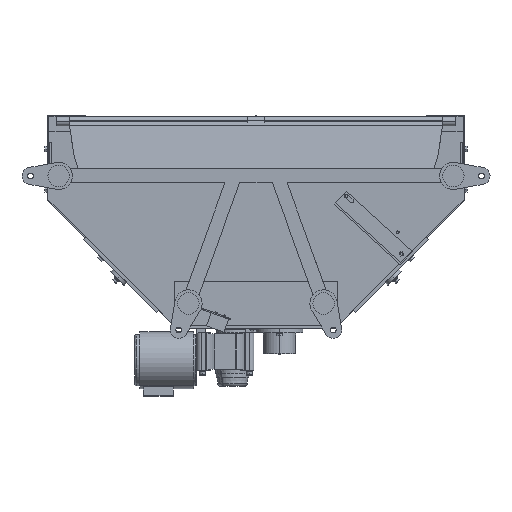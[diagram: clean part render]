
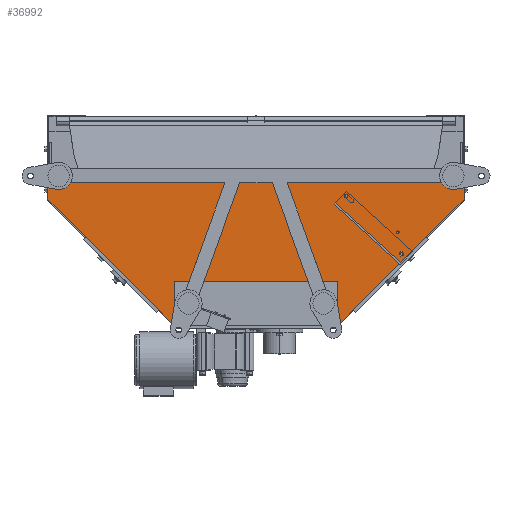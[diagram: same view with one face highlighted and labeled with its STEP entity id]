
A CAD part, front view. The second image highlights one B-rep face of the part: STEP entity #36992.
In plain terms, the highlighted planar face has unit normal (0, -1, 0).
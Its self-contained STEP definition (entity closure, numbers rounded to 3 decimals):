
#1159 = CARTESIAN_POINT ( 'NONE',  ( 183.461, -152.1, -463.4 ) ) ;
#1965 = EDGE_CURVE ( 'NONE', #39033, #6570, #40248, .T. ) ;
#3044 = EDGE_CURVE ( 'NONE', #10712, #39033, #32621, .T. ) ;
#3067 = PLANE ( 'NONE',  #28074 ) ;
#6261 = DIRECTION ( 'NONE',  ( 0.707, 0., 0.707 ) ) ;
#6415 = VECTOR ( 'NONE', #39332, 1000. ) ;
#6570 = VERTEX_POINT ( 'NONE', #27370 ) ;
#7308 = EDGE_CURVE ( 'NONE', #21107, #31858, #39067, .T. ) ;
#10712 = VERTEX_POINT ( 'NONE', #28791 ) ;
#12229 = CARTESIAN_POINT ( 'NONE',  ( -464.967, -152.1, -181.894 ) ) ;
#14032 = FACE_OUTER_BOUND ( 'NONE', #33923, .T. ) ;
#16785 = CARTESIAN_POINT ( 'NONE',  ( 464.967, -152.1, -181.894 ) ) ;
#17070 = CARTESIAN_POINT ( 'NONE',  ( -183.461, -152.1, -463.4 ) ) ;
#19455 = CARTESIAN_POINT ( 'NONE',  ( 0., -152.1, 0. ) ) ;
#19530 = LINE ( 'NONE', #35283, #39117 ) ;
#19878 = VERTEX_POINT ( 'NONE', #38728 ) ;
#20482 = DIRECTION ( 'NONE',  ( 1., 0., 0. ) ) ;
#21107 = VERTEX_POINT ( 'NONE', #23742 ) ;
#21791 = CARTESIAN_POINT ( 'NONE',  ( -464.967, -152.1, -114.5 ) ) ;
#22898 = DIRECTION ( 'NONE',  ( 0., 0., 1. ) ) ;
#23050 = LINE ( 'NONE', #12229, #28525 ) ;
#23742 = CARTESIAN_POINT ( 'NONE',  ( -464.967, -152.1, -181.894 ) ) ;
#24398 = DIRECTION ( 'NONE',  ( 0., 0., -1. ) ) ;
#25920 = ORIENTED_EDGE ( 'NONE', *, *, #3044, .T. ) ;
#26509 = ORIENTED_EDGE ( 'NONE', *, *, #27639, .T. ) ;
#27146 = ORIENTED_EDGE ( 'NONE', *, *, #30878, .T. ) ;
#27370 = CARTESIAN_POINT ( 'NONE',  ( -464.967, -152.1, -114.5 ) ) ;
#27518 = CARTESIAN_POINT ( 'NONE',  ( -183.461, -152.1, -463.4 ) ) ;
#27639 = EDGE_CURVE ( 'NONE', #31858, #19878, #36934, .T. ) ;
#28069 = VECTOR ( 'NONE', #22898, 1000. ) ;
#28074 = AXIS2_PLACEMENT_3D ( 'NONE', #19455, #38657, #34872 ) ;
#28525 = VECTOR ( 'NONE', #24398, 1000. ) ;
#28791 = CARTESIAN_POINT ( 'NONE',  ( 464.967, -152.1, -181.894 ) ) ;
#30878 = EDGE_CURVE ( 'NONE', #6570, #21107, #23050, .T. ) ;
#31858 = VERTEX_POINT ( 'NONE', #27518 ) ;
#32621 = LINE ( 'NONE', #16785, #28069 ) ;
#33923 = EDGE_LOOP ( 'NONE', ( #38209, #26509, #37074, #25920, #36955, #27146 ) ) ;
#34872 = DIRECTION ( 'NONE',  ( 0., 0., 1. ) ) ;
#35166 = CARTESIAN_POINT ( 'NONE',  ( 464.967, -152.1, -114.5 ) ) ;
#35283 = CARTESIAN_POINT ( 'NONE',  ( 183.461, -152.1, -463.4 ) ) ;
#36914 = EDGE_CURVE ( 'NONE', #19878, #10712, #19530, .T. ) ;
#36934 = LINE ( 'NONE', #1159, #40938 ) ;
#36955 = ORIENTED_EDGE ( 'NONE', *, *, #1965, .T. ) ;
#36992 = ADVANCED_FACE ( 'NONE', ( #14032 ), #3067, .F. ) ;
#37074 = ORIENTED_EDGE ( 'NONE', *, *, #36914, .T. ) ;
#38209 = ORIENTED_EDGE ( 'NONE', *, *, #7308, .T. ) ;
#38657 = DIRECTION ( 'NONE',  ( 0., 1., 0. ) ) ;
#38728 = CARTESIAN_POINT ( 'NONE',  ( 183.461, -152.1, -463.4 ) ) ;
#39033 = VERTEX_POINT ( 'NONE', #35166 ) ;
#39067 = LINE ( 'NONE', #17070, #6415 ) ;
#39117 = VECTOR ( 'NONE', #6261, 1000. ) ;
#39250 = VECTOR ( 'NONE', #40892, 1000. ) ;
#39332 = DIRECTION ( 'NONE',  ( 0.707, 0., -0.707 ) ) ;
#40248 = LINE ( 'NONE', #21791, #39250 ) ;
#40892 = DIRECTION ( 'NONE',  ( -1., 0., 0. ) ) ;
#40938 = VECTOR ( 'NONE', #20482, 1000. ) ;
